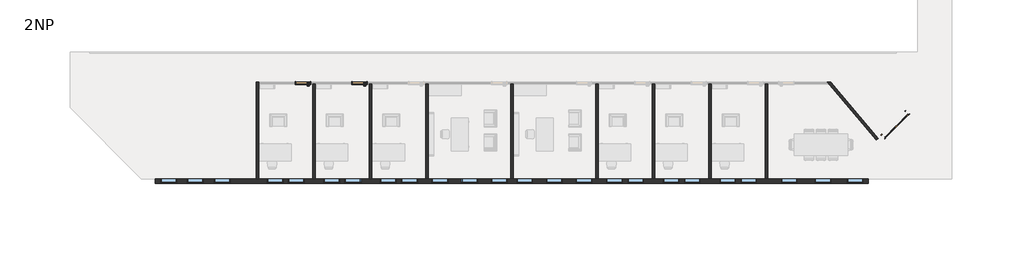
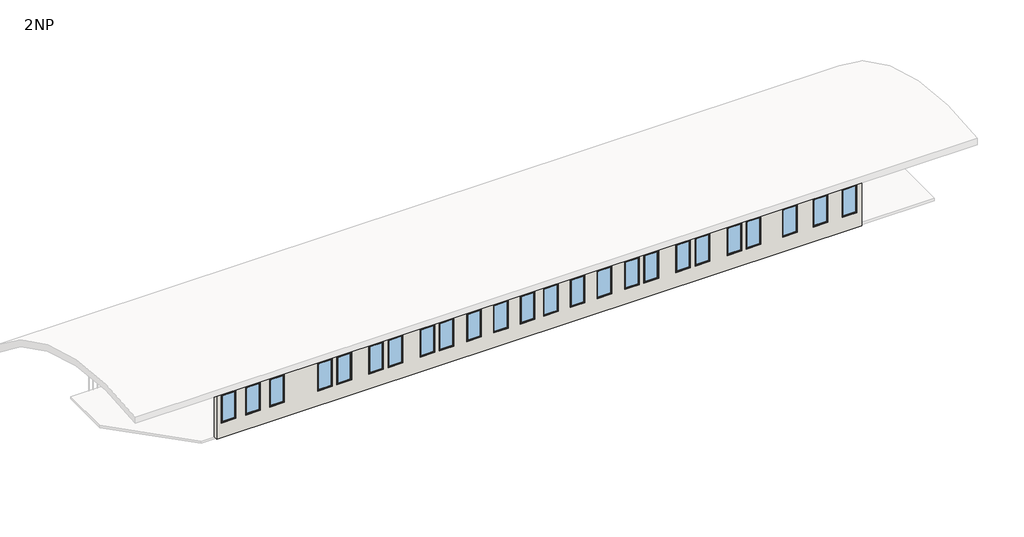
# One storey, part 1 of 2: 24 windows, 11 walls, 3 doors.
"""IFC4 building model written with IfcOpenShell, lengths in millimetres."""

import ifcopenshell
import ifcopenshell.guid

model = None  # the IFC model being written
_history = None  # IfcOwnerHistory: only IFC2X3 demands one
_inside = {}  # id of a spatial element -> (the spatial element, [elements in it])
_under = {}  # id of a project, library or spatial element -> (it, [spatial elements below it])
_declared = {}  # id of a project -> (the project, [libraries it declares])
_typed = {}  # id of a type object -> (the type object, [elements of that type])
_made_of = {}  # id of a material, layer set ... -> (it, [elements and type objects made of it])


def new_model(schema):
    """Start an empty IFC model of exactly this schema.

    Asked for "IFC4X3", IfcOpenShell would pick the latest addendum, in which some entities
    have other attributes; the version numbers below select the first issue.
    IFC2X3 requires an IfcOwnerHistory on every rooted entity: one is made here for all.
    """
    global model, _history
    if schema == "IFC4X3":
        model = ifcopenshell.file(schema_version=(4, 3, 0, 0))
    else:
        model = ifcopenshell.file(schema=schema)
    _inside.clear()
    _under.clear()
    _declared.clear()
    _typed.clear()
    _made_of.clear()
    _history = None
    if model.schema == "IFC2X3":
        org = make("IfcOrganization", Name="unknown")
        user = make(
            "IfcPersonAndOrganization",
            ThePerson=make("IfcPerson", FamilyName="unknown"),
            TheOrganization=org,
        )
        app = make(
            "IfcApplication",
            ApplicationDeveloper=org,
            Version="unknown",
            ApplicationFullName="unknown",
            ApplicationIdentifier="unknown",
        )
        _history = make(
            "IfcOwnerHistory",
            OwningUser=user,
            OwningApplication=app,
            ChangeAction="ADDED",
            CreationDate=0,
        )
    return model


def make(cls, **values):
    """One entity of the class cls with the attributes given. An attribute that is None is left unset."""
    return model.create_entity(
        cls, **{name: value for name, value in values.items() if value is not None}
    )


def rooted(cls, **values):
    """An entity with a GlobalId (a new one), such as an element, a storey or a relation."""
    return make(cls, GlobalId=ifcopenshell.guid.new(), OwnerHistory=_history, **values)


def si_unit(unit_type, name, prefix=None):
    """IfcSIUnit, for example si_unit("LENGTHUNIT", "METRE", prefix="MILLI")."""
    return make("IfcSIUnit", UnitType=unit_type, Prefix=prefix, Name=name)


def assignment(units):
    """IfcUnitAssignment: the units of a project."""
    return None if units is None else make("IfcUnitAssignment", Units=units)


def point(xyz):
    """IfcCartesianPoint."""
    return None if xyz is None else make("IfcCartesianPoint", Coordinates=xyz)


def direction(xyz):
    """IfcDirection."""
    return None if xyz is None else make("IfcDirection", DirectionRatios=xyz)


def frame(location, z_axis=None, x_axis=None):
    """IfcAxis2Placement3D, a coordinate frame: its origin and axes. An axis left out is left unset."""
    return make(
        "IfcAxis2Placement3D",
        Location=point(location),
        Axis=direction(z_axis),
        RefDirection=direction(x_axis),
    )


def frame_2d(location, x_axis=None):
    """IfcAxis2Placement2D, a coordinate frame in the plane: its origin and x axis."""
    return make(
        "IfcAxis2Placement2D", Location=point(location), RefDirection=direction(x_axis)
    )


def origin():
    """The frame at (0, 0, 0) with its axes left unset."""
    return frame((0.0, 0.0, 0.0))


def origin_with_axes():
    """The frame at (0, 0, 0) with the z axis (0, 0, 1) and the x axis (1, 0, 0) written out."""
    return frame((0.0, 0.0, 0.0), z_axis=(0.0, 0.0, 1.0), x_axis=(1.0, 0.0, 0.0))


def place(relative_to, where):
    """IfcLocalPlacement: puts the frame where relative to a parent placement (None: the world)."""
    return make(
        "IfcLocalPlacement", PlacementRelTo=relative_to, RelativePlacement=where
    )


def context(
    kind, dimensions, precision=None, world=None, true_north=None, identifier=None
):
    """IfcGeometricRepresentationContext, for example the 3D "Model" context."""
    return make(
        "IfcGeometricRepresentationContext",
        ContextIdentifier=identifier,
        ContextType=kind,
        CoordinateSpaceDimension=dimensions,
        Precision=precision,
        WorldCoordinateSystem=world,
        TrueNorth=true_north,
    )


def project(units=None, contexts=None):
    """IfcProject with its units and contexts."""
    return rooted(
        "IfcProject",
        Name="project",
        RepresentationContexts=contexts,
        UnitsInContext=assignment(units),
    )


def spatial(cls, under=None, at=None, **own):
    """A site, building, storey or space (cls), placed at a placement, below another one or the project."""
    s = rooted(cls, ObjectPlacement=at, **own)
    if under is not None:
        _under.setdefault(under.id(), (under, []))[1].append(s)
    return s


def polyline(points):
    """IfcPolyline through the points."""
    return make("IfcPolyline", Points=[point(p) for p in points])


def circle_curve(where, radius):
    """IfcCircle in the frame where."""
    return make("IfcCircle", Position=where, Radius=radius)


def ellipse_curve(where, semi_axis1, semi_axis2):
    """IfcEllipse in the frame where."""
    return make(
        "IfcEllipse", Position=where, SemiAxis1=semi_axis1, SemiAxis2=semi_axis2
    )


def trimmed(basis, trim1, trim2, sense, master):
    """IfcTrimmedCurve: the piece of a basis curve between two trims."""
    return make(
        "IfcTrimmedCurve",
        BasisCurve=basis,
        Trim1=trim1,
        Trim2=trim2,
        SenseAgreement=sense,
        MasterRepresentation=master,
    )


def segment(curve, same_sense, transition):
    """IfcCompositeCurveSegment."""
    return make(
        "IfcCompositeCurveSegment",
        Transition=transition,
        SameSense=same_sense,
        ParentCurve=curve,
    )


def composite_curve(segments, self_intersect=None):
    """IfcCompositeCurve: segments joined end to end."""
    return make("IfcCompositeCurve", Segments=segments, SelfIntersect=self_intersect)


def outline(outer, holes=None, kind="AREA"):
    """IfcArbitraryClosedProfileDef: a profile drawn as a closed curve; with holes, ...WithVoids."""
    if holes is None:
        return make("IfcArbitraryClosedProfileDef", ProfileType=kind, OuterCurve=outer)
    return make(
        "IfcArbitraryProfileDefWithVoids",
        ProfileType=kind,
        OuterCurve=outer,
        InnerCurves=holes,
    )


def extrude(swept, where, along, depth):
    """IfcExtrudedAreaSolid: the profile swept, set in the frame where, extruded along a direction by depth."""
    return make(
        "IfcExtrudedAreaSolid",
        SweptArea=swept,
        Position=where,
        ExtrudedDirection=direction(along),
        Depth=depth,
    )


def faces_of(points, faces, orient=None, outer=None):
    """IfcFace entities. A face is a list of loops; a loop is a list of indices into points, from 0.

    orient and outer hold one flag for each loop. By default every Orientation is true, the
    first loop of a face is its IfcFaceOuterBound and the others are IfcFaceBound.
    """
    made = []
    for i, loops in enumerate(faces):
        bounds = []
        for j, loop in enumerate(loops):
            is_outer = j == 0 if outer is None else outer[i][j]
            bounds.append(
                make(
                    "IfcFaceOuterBound" if is_outer else "IfcFaceBound",
                    Bound=make("IfcPolyLoop", Polygon=[points[k] for k in loop]),
                    Orientation=True if orient is None else orient[i][j],
                )
            )
        made.append(make("IfcFace", Bounds=bounds))
    return made


def faceted_brep(points, faces, orient=None, outer=None, voids=None):
    """IfcFacetedBrep: a solid bounded by flat faces; with voids (closed shells), ...WithVoids."""
    shared = [point(p) for p in points]
    hull = make("IfcClosedShell", CfsFaces=faces_of(shared, faces, orient, outer))
    if voids is None:
        return make("IfcFacetedBrep", Outer=hull)
    return make(
        "IfcFacetedBrepWithVoids",
        Outer=hull,
        Voids=[
            make(cls, CfsFaces=faces_of(shared, fs, o, b)) for cls, fs, o, b in voids
        ],
    )


def shape(context_of_items, identifier, shape_type, items):
    """IfcShapeRepresentation: the items that make up one representation, for example the "Body"."""
    return make(
        "IfcShapeRepresentation",
        ContextOfItems=context_of_items,
        RepresentationIdentifier=identifier,
        RepresentationType=shape_type,
        Items=items,
    )


def source(mapping_origin, context_of_items, identifier, shape_type, items):
    """IfcRepresentationMap: a shape defined once, which mapped items show again and again."""
    return make(
        "IfcRepresentationMap",
        MappingOrigin=mapping_origin,
        MappedRepresentation=shape(context_of_items, identifier, shape_type, items),
    )


def transform(
    local_origin,
    x_axis=None,
    y_axis=None,
    z_axis=None,
    scale=None,
    scale2=None,
    scale3=None,
    uniform=True,
):
    """IfcCartesianTransformationOperator3D, or its non-uniform kind. x_axis, y_axis, z_axis: its Axis1, 2, 3."""
    if uniform:
        return make(
            "IfcCartesianTransformationOperator3D",
            Axis1=direction(x_axis),
            Axis2=direction(y_axis),
            LocalOrigin=point(local_origin),
            Scale=scale,
            Axis3=direction(z_axis),
        )
    return make(
        "IfcCartesianTransformationOperator3DnonUniform",
        Axis1=direction(x_axis),
        Axis2=direction(y_axis),
        LocalOrigin=point(local_origin),
        Scale=scale,
        Axis3=direction(z_axis),
        Scale2=scale2,
        Scale3=scale3,
    )


def mapped(mapping_source, mapping_target):
    """IfcMappedItem: shows the shape of a source again, moved by a transform."""
    return make(
        "IfcMappedItem", MappingSource=mapping_source, MappingTarget=mapping_target
    )


def made_of(thing, what):
    """Note that an element or type object is made of a material, layer set ...; save() writes the relation."""
    if what is not None:
        _made_of.setdefault(what.id(), (what, []))[1].append(thing)
    return thing


def element(
    cls,
    number,
    at=None,
    inside=None,
    cuts=None,
    type_object=None,
    material=None,
    context=None,
    identifier="Body",
    shape_type=None,
    held_by="IfcProductDefinitionShape",
    body=None,
    shapes=None,
    **own,
):
    """One element of the class cls, such as IfcWall. Its Tag is "e" and its number.

    at: its placement. inside: the storey or other place that contains it. cuts: it is an
    opening in that element (IfcRelVoidsElement). A single representation is given by context,
    identifier, shape_type and body (its items); several are given by shapes. held_by: the class
    of the entity that holds the representations. save() writes the other relations.
    """
    e = rooted(cls, Tag="e%d" % number, ObjectPlacement=at, **own)
    if body is not None:
        shapes = [shape(context, identifier, shape_type, body)]
    if shapes is not None:
        e.Representation = make(held_by, Representations=shapes)
    if inside is not None:
        _inside.setdefault(inside.id(), (inside, []))[1].append(e)
    if cuts is not None:
        rooted(
            "IfcRelVoidsElement", RelatingBuildingElement=cuts, RelatedOpeningElement=e
        )
    if type_object is not None:
        _typed.setdefault(type_object.id(), (type_object, []))[1].append(e)
    return made_of(e, material)


def aggregate(whole, parts):
    """IfcRelAggregates: a whole, such as a stair, and the parts it consists of."""
    return rooted("IfcRelAggregates", RelatingObject=whole, RelatedObjects=parts)


def save(model, path):
    """Write the relations noted so far, then the file.

    IfcRelAggregates (storeys below a building ...), IfcRelContainedInSpatialStructure (elements
    in a storey), IfcRelDefinesByType, IfcRelAssociatesMaterial and IfcRelDeclares: one each for
    every whole, place, type object, material and project.
    """
    for whole, parts in _under.values():
        aggregate(whole, parts)
    for where, things in _inside.values():
        rooted(
            "IfcRelContainedInSpatialStructure",
            RelatedElements=things,
            RelatingStructure=where,
        )
    for kind, things in _typed.values():
        rooted("IfcRelDefinesByType", RelatedObjects=things, RelatingType=kind)
    for what, things in _made_of.values():
        rooted("IfcRelAssociatesMaterial", RelatedObjects=things, RelatingMaterial=what)
    for by, libraries in _declared.values():
        rooted("IfcRelDeclares", RelatingContext=by, RelatedDefinitions=libraries)
    model.write(path)


def plane_surface(at):
    """IfcPlane: the flat surface through the origin of the frame at, square to its z axis."""
    return make("IfcPlane", Position=at)


def cylinder_surface(at, radius):
    """IfcCylindricalSurface: all points at the distance radius from the z axis of the frame at."""
    return make("IfcCylindricalSurface", Position=at, Radius=radius)


def advanced_brep(points, edges, surfaces, faces):
    """IfcAdvancedBrep: a solid bounded by faces that lie on surfaces and meet in shared edges.

    An edge is (start, end): straight between two places in points (the first is 0);
    or (start, end, curve); or (start, end, curve, False) where it runs against its curve.
    A face is (place in surfaces, loops), or (place, loops, False) where it looks against
    its surface's normal. A loop lists edges by number (the first is 1), with a minus sign
    where the edge is run from its end to its start. The first loop is the outer one.
    """
    corners = [point(p) for p in points]
    vertices = [make("IfcVertexPoint", VertexGeometry=c) for c in corners]
    made = []
    for start, end, *more in edges:
        made.append(
            make(
                "IfcEdgeCurve",
                EdgeStart=vertices[start],
                EdgeEnd=vertices[end],
                EdgeGeometry=more[0] if more else make("IfcPolyline", Points=[corners[start], corners[end]]),
                SameSense=more[1] if len(more) > 1 else True,
            )
        )
    hull = []
    for where, loops, *sense in faces:
        bounds = []
        for j, loop in enumerate(loops):
            ring = [make("IfcOrientedEdge", EdgeElement=made[abs(k) - 1], Orientation=k > 0) for k in loop]
            bounds.append(
                make(
                    "IfcFaceOuterBound" if j == 0 else "IfcFaceBound",
                    Bound=make("IfcEdgeLoop", EdgeList=ring),
                    Orientation=True,
                )
            )
        hull.append(make("IfcAdvancedFace", Bounds=bounds, FaceSurface=surfaces[where], SameSense=sense[0] if sense else True))
    return make("IfcAdvancedBrep", Outer=make("IfcClosedShell", CfsFaces=hull))


def door_1800_x_1970mm_ce9160c6(model_context):
    return source(origin(), model_context, "Body", "SweptSolid", [
        extrude(outline(polyline([(0.0, 991.0), (2210.0, 991.0), (2210.0, -991.0), (0.0, -991.0), (0.0, -915.0), (2134.0, -915.0), (2134.0, 915.0), (0.0, 915.0), (0.0, 991.0)])), frame((0.0, -156.11875, 0.0), z_axis=(0.0, 1.0, 0.0), x_axis=(0.0, 0.0, 1.0)), (0.0, 0.0, 1.0), 25.0),
        extrude(outline(polyline([(2134.0, 915.0), (0.0, 915.0), (0.0, 991.0), (2210.0, 991.0), (2210.0, -991.0), (0.0, -991.0), (0.0, -915.0), (2134.0, -915.0), (2134.0, 915.0)])), frame((0.0, 135.88125, 0.0), z_axis=(0.0, 1.0, 0.0), x_axis=(0.0, 0.0, 1.0)), (0.0, 0.0, 1.0), 25.0),
        extrude(outline(polyline([(813.4, 110.48125), (101.6, 110.48125), (101.6, 117.625), (813.4, 117.625), (813.4, 110.48125)])), frame((0.0, 0.0, 102.0), z_axis=(0.0, 0.0, 1.0), x_axis=(1.0, 0.0, 0.0)), (0.0, 0.0, 1.0), 1930.0),
        extrude(outline(polyline([(-101.6, 110.48125), (-813.4, 110.48125), (-813.4, 117.625), (-101.6, 117.625), (-101.6, 110.48125)])), frame((0.0, 0.0, 102.0), z_axis=(0.0, 0.0, 1.0), x_axis=(1.0, 0.0, 0.0)), (0.0, 0.0, 1.0), 1930.0),
        extrude(outline(polyline([(2134.0, 915.0), (2134.0, -915.0), (0.0, -915.0), (0.0, 915.0), (2134.0, 915.0)]), holes=[polyline([(2032.0, -101.6), (102.0, -101.6), (102.0, -813.4), (2032.0, -813.4), (2032.0, -101.6)]), polyline([(2032.0, 813.4), (102.0, 813.4), (102.0, 101.6), (2032.0, 101.6), (2032.0, 813.4)])]), frame((0.0, 84.88125, 0.0), z_axis=(0.0, 1.0, 0.0), x_axis=(0.0, 0.0, 1.0)), (0.0, 0.0, 1.0), 51.0),
    ])


def door_900_x_2000_4c66a93d(model_context):
    return source(origin(), model_context, "Body", "SolidModel", [
        advanced_brep(
        [(340.0, -97.25, 1000.0), (320.0, -97.25, 1000.0), (340.0, -167.25, 1000.0), (320.0, -147.25, 1000.0), (215.0, -167.25, 1000.0), (215.0, -147.25, 1000.0)],
        [
            (0, 1, circle_curve(frame((330.0, -97.25, 1000.0), z_axis=(0.0, 1.0, 0.0), x_axis=(-1.0, 0.0, 0.0)), 10.0)),
            (1, 0, circle_curve(frame((330.0, -97.25, 1000.0), z_axis=(0.0, 1.0, 0.0), x_axis=(-1.0, 0.0, 0.0)), 10.0)),
            (0, 2),
            (2, 3, ellipse_curve(frame((330.0, -157.25, 1000.0), z_axis=(0.7071067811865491, 0.7071067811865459, 0.0), x_axis=(-0.7071067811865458, 0.7071067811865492, 0.0)), 14.1421356, 10.0)),
            (3, 1),
            (3, 2, ellipse_curve(frame((330.0, -157.25, 1000.0), z_axis=(0.7071067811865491, 0.7071067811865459, 0.0), x_axis=(-0.7071067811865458, 0.7071067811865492, 0.0)), 14.1421356, 10.0)),
            (4, 5, circle_curve(frame((215.0, -157.25, 1000.0), z_axis=(-1.0, 0.0, 0.0), x_axis=(0.0, 1.0, 0.0)), 10.0)),
            (5, 4, circle_curve(frame((215.0, -157.25, 1000.0), z_axis=(-1.0, 0.0, 0.0), x_axis=(0.0, 1.0, 0.0)), 10.0)),
            (2, 4),
            (5, 3),
        ],
        [
            plane_surface(frame((330.0, -97.25, 1000.0), z_axis=(0.0, 1.0, 0.0), x_axis=(0.0, 0.0, 1.0))),
            cylinder_surface(frame((330.0, -97.25, 1000.0), z_axis=(0.0, 1.0, 0.0), x_axis=(-1.0, 0.0, 0.0)), 10.0),
            plane_surface(frame((215.0, -157.25, 1000.0), z_axis=(-1.0, 0.0, 0.0), x_axis=(0.0, 0.0, 1.0))),
            cylinder_surface(frame((330.0, -157.25, 1000.0), z_axis=(1.0, 0.0, 0.0), x_axis=(0.0, 1.0, 0.0)), 10.0),
        ],
        [
            (0, [[1, 2]]),
            (1, [[-1, 3, 4, 5]]),
            (1, [[-2, -5, 6, -3]]),
            (2, [[7, 8]]),
            (3, [[-4, 9, -8, 10]]),
            (3, [[-6, -10, -7, -9]]),
        ],
    ),
        extrude(outline(composite_curve([segment(trimmed(circle_curve(frame_2d((900.0, 330.0)), 26.0), [point((900.0, 304.0))], [point((900.0, 356.0))], False, "CARTESIAN"), True, "CONTINUOUS"), segment(trimmed(circle_curve(frame_2d((900.0, 330.0)), 26.0), [point((900.0, 356.0))], [point((900.0, 304.0))], False, "CARTESIAN"), True, "CONTINUOUS")], self_intersect=False)), frame((0.0, -97.25, 0.0), z_axis=(0.0, 1.0, 0.0), x_axis=(0.0, 0.0, 1.0)), (0.0, 0.0, 1.0), 8.0),
        extrude(outline(composite_curve([segment(trimmed(circle_curve(frame_2d((1000.0, 330.0)), 26.0), [point((1000.0, 304.0))], [point((1000.0, 356.0))], False, "CARTESIAN"), True, "CONTINUOUS"), segment(trimmed(circle_curve(frame_2d((1000.0, 330.0)), 26.0), [point((1000.0, 356.0))], [point((1000.0, 304.0))], False, "CARTESIAN"), True, "CONTINUOUS")], self_intersect=False)), frame((0.0, -97.25, 0.0), z_axis=(0.0, 1.0, 0.0), x_axis=(0.0, 0.0, 1.0)), (0.0, 0.0, 1.0), 8.0),
        advanced_brep(
        [(340.0, -41.25, 1000.0), (320.0, -41.25, 1000.0), (320.0, 8.75, 1000.0), (340.0, 28.75, 1000.0), (215.0, 28.75, 1000.0), (215.0, 8.75, 1000.0)],
        [
            (0, 1, circle_curve(frame((330.0, -41.25, 1000.0), z_axis=(0.0, -1.0, 0.0), x_axis=(-1.0, 0.0, 0.0)), 10.0)),
            (1, 0, circle_curve(frame((330.0, -41.25, 1000.0), z_axis=(0.0, -1.0, 0.0), x_axis=(-1.0, 0.0, 0.0)), 10.0)),
            (1, 2),
            (2, 3, ellipse_curve(frame((330.0, 18.75, 1000.0), z_axis=(0.7071067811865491, -0.7071067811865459, 0.0), x_axis=(-0.7071067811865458, -0.7071067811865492, 0.0)), 14.1421356, 10.0)),
            (3, 0),
            (3, 2, ellipse_curve(frame((330.0, 18.75, 1000.0), z_axis=(0.7071067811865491, -0.7071067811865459, 0.0), x_axis=(-0.7071067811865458, -0.7071067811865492, 0.0)), 14.1421356, 10.0)),
            (4, 5, circle_curve(frame((215.0, 18.75, 1000.0), z_axis=(-1.0, 0.0, 0.0), x_axis=(0.0, -1.0, 0.0)), 10.0)),
            (5, 4, circle_curve(frame((215.0, 18.75, 1000.0), z_axis=(-1.0, 0.0, 0.0), x_axis=(0.0, -1.0, 0.0)), 10.0)),
            (2, 5),
            (4, 3),
        ],
        [
            plane_surface(frame((330.0, -41.25, 1000.0), z_axis=(0.0, -1.0, 0.0), x_axis=(0.0, 0.0, 1.0))),
            cylinder_surface(frame((330.0, -41.25, 1000.0), z_axis=(0.0, -1.0, 0.0), x_axis=(-1.0, 0.0, 0.0)), 10.0),
            plane_surface(frame((215.0, 18.75, 1000.0), z_axis=(-1.0, 0.0, 0.0), x_axis=(0.0, 0.0, 1.0))),
            cylinder_surface(frame((330.0, 18.75, 1000.0), z_axis=(1.0, 0.0, 0.0), x_axis=(0.0, -1.0, 0.0)), 10.0),
        ],
        [
            (0, [[1, 2]]),
            (1, [[3, 4, 5, -2]]),
            (1, [[-5, 6, -3, -1]]),
            (2, [[7, 8]]),
            (3, [[9, -7, 10, -4]]),
            (3, [[-10, -8, -9, -6]]),
        ],
    ),
        extrude(outline(composite_curve([segment(trimmed(circle_curve(frame_2d((900.0, 330.0)), 26.0), [point((900.0, 304.0))], [point((900.0, 356.0))], False, "CARTESIAN"), True, "CONTINUOUS"), segment(trimmed(circle_curve(frame_2d((900.0, 330.0)), 26.0), [point((900.0, 356.0))], [point((900.0, 304.0))], False, "CARTESIAN"), True, "CONTINUOUS")], self_intersect=False)), frame((0.0, -49.25, 0.0), z_axis=(0.0, 1.0, 0.0), x_axis=(0.0, 0.0, 1.0)), (0.0, 0.0, 1.0), 8.0),
        extrude(outline(composite_curve([segment(trimmed(circle_curve(frame_2d((1000.0, 330.0)), 26.0), [point((1000.0, 304.0))], [point((1000.0, 356.0))], False, "CARTESIAN"), True, "CONTINUOUS"), segment(trimmed(circle_curve(frame_2d((1000.0, 330.0)), 26.0), [point((1000.0, 356.0))], [point((1000.0, 304.0))], False, "CARTESIAN"), True, "CONTINUOUS")], self_intersect=False)), frame((0.0, -49.25, 0.0), z_axis=(0.0, 1.0, 0.0), x_axis=(0.0, 0.0, 1.0)), (0.0, 0.0, 1.0), 8.0),
        extrude(outline(polyline([(-420.0, -89.25), (-420.0, -49.25), (380.0, -49.25), (380.0, -89.25), (-420.0, -89.25)])), origin_with_axes(), (0.0, 0.0, 1.0), 2000.0),
        extrude(outline(polyline([(0.0, 430.0), (2050.0, 430.0), (2050.0, -470.0), (0.0, -470.0), (0.0, -420.0), (2000.0, -420.0), (2000.0, 380.0), (0.0, 380.0), (0.0, 430.0)])), frame((0.0, -77.25, 0.0), z_axis=(0.0, 1.0, 0.0), x_axis=(0.0, 0.0, 1.0)), (0.0, 0.0, 1.0), 154.5),
        extrude(outline(polyline([(380.0, 69.25), (380.0, -49.25), (-420.0, -49.25), (-420.0, 69.25), (380.0, 69.25)])), origin_with_axes(), (0.0, 0.0, 1.0), 25.0),
    ])


def window_0915_x_1830mm_7ee91fd3(model_context):
    return source(origin(), model_context, "Body", "SweptSolid", [
        extrude(outline(polyline([(-394.5, 111.5), (394.5, 111.5), (394.5, 99.5), (-394.5, 99.5), (-394.5, 111.5)])), frame((0.0, 0.0, 368.0), z_axis=(0.0, 0.0, 1.0), x_axis=(1.0, 0.0, 0.0)), (0.0, 0.0, 1.0), 1704.0),
        extrude(outline(polyline([(2116.0, -438.5), (324.0, -438.5), (324.0, 438.5), (2116.0, 438.5), (2116.0, -438.5)]), holes=[polyline([(2072.0, -394.5), (2072.0, 394.5), (368.0, 394.5), (368.0, -394.5), (2072.0, -394.5)])]), frame((0.0, 83.5, 0.0), z_axis=(0.0, 1.0, 0.0), x_axis=(0.0, 0.0, 1.0)), (0.0, 0.0, 1.0), 44.0),
        extrude(outline(polyline([(2135.0, -457.5), (305.0, -457.5), (305.0, 457.5), (2135.0, 457.5), (2135.0, -457.5)]), holes=[polyline([(2116.0, -438.5), (2116.0, 438.5), (324.0, 438.5), (324.0, -438.5), (2116.0, -438.5)])]), frame((0.0, 83.5, 0.0), z_axis=(0.0, 1.0, 0.0), x_axis=(0.0, 0.0, 1.0)), (0.0, 0.0, 1.0), 63.0),
        extrude(outline(polyline([(2135.0, -457.5), (305.0, -457.5), (305.0, 457.5), (2135.0, 457.5), (2135.0, -457.5)]), holes=[polyline([(2103.0, -425.5), (2103.0, 425.5), (337.0, 425.5), (337.0, -425.5), (2103.0, -425.5)])]), frame((0.0, -120.5, 0.0), z_axis=(0.0, 1.0, 0.0), x_axis=(0.0, 0.0, 1.0)), (0.0, 0.0, 1.0), 204.0),
    ])


model = new_model("IFC4")

# Units and contexts
model_context = context("Model", 3, world=origin())
ifc_project = project(units=[si_unit("LENGTHUNIT", "METRE", prefix="MILLI")], contexts=[model_context])

# Site, building, storey
site = spatial("IfcSite", under=ifc_project)
building = spatial("IfcBuilding", under=site)
storey = spatial("IfcBuildingStorey", under=building, Name="2NP", Elevation=4000.0)

# Doors
placement = place(None, origin())
door_1800_x_1970mm_shape = door_1800_x_1970mm_ce9160c6(model_context)
element("IfcDoor", 1, ObjectType="Dvoukridle prosklene : 1800 x 1970mm", at=placement, inside=storey, context=model_context, shape_type="MappedRepresentation", body=[
    mapped(door_1800_x_1970mm_shape, transform((35269.5413404, -1561.4077171, 4000.0), x_axis=(-0.7071067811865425, -0.7071067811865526, 0.0), y_axis=(0.7071067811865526, -0.7071067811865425, 0.0), z_axis=(0.0, 0.0, 1.0))),
])
door_900_x_2000_shape = door_900_x_2000_4c66a93d(model_context)
element("IfcDoor", 2, ObjectType="Jednokridle oboustrana zaruben : 900 x 2000", at=placement, inside=storey, context=model_context, shape_type="MappedRepresentation", body=[
    mapped(door_900_x_2000_shape, transform((1782.4255273, 791.5551306, 4000.0), x_axis=(1.0, 0.0, 0.0), y_axis=(0.0, 1.0, 0.0), z_axis=(0.0, 0.0, 1.0))),
])
element("IfcDoor", 3, ObjectType="Jednokridle oboustrana zaruben : 900 x 2000", at=placement, inside=storey, context=model_context, shape_type="MappedRepresentation", body=[
    mapped(door_900_x_2000_shape, transform((4982.4255273, 791.5551306, 4000.0), x_axis=(1.0, 0.0, 0.0), y_axis=(0.0, 1.0, 0.0), z_axis=(0.0, 0.0, 1.0))),
])

# Walls
element("IfcWall", 4, ObjectType="Exterior - EIFS on Mtl. Stud", at=placement, inside=storey, context=model_context, shape_type="Brep", body=[
    faceted_brep([(33755.6755273, -4624.9448694, 4000.0), (28058.4255273, -4624.9448694, 4000.0), (27919.9255273, -4624.9448694, 4000.0), (24858.4255273, -4624.9448694, 4000.0), (24719.9255273, -4624.9448694, 4000.0), (21658.4255273, -4624.9448694, 4000.0), (21519.9255273, -4624.9448694, 4000.0), (18458.4255273, -4624.9448694, 4000.0), (18319.9255273, -4624.9448694, 4000.0), (13658.4255273, -4624.9448694, 4000.0), (13519.9255273, -4624.9448694, 4000.0), (8858.4255273, -4624.9448694, 4000.0), (8719.9255273, -4624.9448694, 4000.0), (5658.4255273, -4624.9448694, 4000.0), (5519.9255273, -4624.9448694, 4000.0), (2458.4255273, -4624.9448694, 4000.0), (2319.9255273, -4624.9448694, 4000.0), (-741.5744727, -4624.9448694, 4000.0), (-880.0744727, -4624.9448694, 4000.0), (-6587.8076313, -4624.9448694, 4000.0), (-6587.8076313, -4624.9448694, 8000.0), (33755.6755273, -4624.9448694, 8000.0), (33455.6755273, -4624.9448694, 4970.0), (33455.6755273, -4624.9448694, 6800.0), (32540.6755273, -4624.9448694, 6800.0), (32540.6755273, -4624.9448694, 4970.0), (31640.6755273, -4624.9448694, 4970.0), (31640.6755273, -4624.9448694, 6800.0), (30725.6755273, -4624.9448694, 6800.0), (30725.6755273, -4624.9448694, 4970.0), (29725.6755273, -4624.9448694, 4970.0), (29725.6755273, -4624.9448694, 6800.0), (28810.6755273, -4624.9448694, 6800.0), (28810.6755273, -4624.9448694, 4970.0), (-5380.0744727, -4624.9448694, 4970.0), (-5380.0744727, -4624.9448694, 6800.0), (-6295.0744727, -4624.9448694, 6800.0), (-6295.0744727, -4624.9448694, 4970.0), (-3865.0744727, -4624.9448694, 4970.0), (-3865.0744727, -4624.9448694, 6800.0), (-4780.0744727, -4624.9448694, 6800.0), (-4780.0744727, -4624.9448694, 4970.0), (-2350.0744727, -4624.9448694, 4970.0), (-2350.0744727, -4624.9448694, 6800.0), (-3265.0744727, -4624.9448694, 6800.0), (-3265.0744727, -4624.9448694, 4970.0), (646.6755273, -4624.9448694, 4970.0), (646.6755273, -4624.9448694, 6800.0), (-268.3244727, -4624.9448694, 6800.0), (-268.3244727, -4624.9448694, 4970.0), (1846.6755273, -4624.9448694, 4970.0), (1846.6755273, -4624.9448694, 6800.0), (931.6755273, -4624.9448694, 6800.0), (931.6755273, -4624.9448694, 4970.0), (9973.4255273, -4624.9448694, 4970.0), (9973.4255273, -4624.9448694, 6800.0), (9058.4255273, -4624.9448694, 6800.0), (9058.4255273, -4624.9448694, 4970.0), (13319.9255273, -4624.9448694, 4970.0), (13319.9255273, -4624.9448694, 6800.0), (12404.9255273, -4624.9448694, 6800.0), (12404.9255273, -4624.9448694, 4970.0), (11646.4255273, -4624.9448694, 4970.0), (11646.4255273, -4624.9448694, 6800.0), (10731.4255273, -4624.9448694, 6800.0), (10731.4255273, -4624.9448694, 4970.0), (14773.4255273, -4624.9448694, 4970.0), (14773.4255273, -4624.9448694, 6800.0), (13858.4255273, -4624.9448694, 6800.0), (13858.4255273, -4624.9448694, 4970.0), (18119.9255273, -4624.9448694, 4970.0), (18119.9255273, -4624.9448694, 6800.0), (17204.9255273, -4624.9448694, 6800.0), (17204.9255273, -4624.9448694, 4970.0), (16446.4255273, -4624.9448694, 4970.0), (16446.4255273, -4624.9448694, 6800.0), (15531.4255273, -4624.9448694, 6800.0), (15531.4255273, -4624.9448694, 4970.0), (3846.6755273, -4624.9448694, 4970.0), (3846.6755273, -4624.9448694, 6800.0), (2931.6755273, -4624.9448694, 6800.0), (2931.6755273, -4624.9448694, 4970.0), (5046.6755273, -4624.9448694, 4970.0), (5046.6755273, -4624.9448694, 6800.0), (4131.6755273, -4624.9448694, 6800.0), (4131.6755273, -4624.9448694, 4970.0), (7046.6755273, -4624.9448694, 4970.0), (7046.6755273, -4624.9448694, 6800.0), (6131.6755273, -4624.9448694, 6800.0), (6131.6755273, -4624.9448694, 4970.0), (8246.6755273, -4624.9448694, 4970.0), (8246.6755273, -4624.9448694, 6800.0), (7331.6755273, -4624.9448694, 6800.0), (7331.6755273, -4624.9448694, 4970.0), (19846.6755273, -4624.9448694, 4970.0), (19846.6755273, -4624.9448694, 6800.0), (18931.6755273, -4624.9448694, 6800.0), (18931.6755273, -4624.9448694, 4970.0), (21046.6755273, -4624.9448694, 4970.0), (21046.6755273, -4624.9448694, 6800.0), (20131.6755273, -4624.9448694, 6800.0), (20131.6755273, -4624.9448694, 4970.0), (23046.6755273, -4624.9448694, 4970.0), (23046.6755273, -4624.9448694, 6800.0), (22131.6755273, -4624.9448694, 6800.0), (22131.6755273, -4624.9448694, 4970.0), (24246.6755273, -4624.9448694, 4970.0), (24246.6755273, -4624.9448694, 6800.0), (23331.6755273, -4624.9448694, 6800.0), (23331.6755273, -4624.9448694, 4970.0), (26246.6755273, -4624.9448694, 4970.0), (26246.6755273, -4624.9448694, 6800.0), (25331.6755273, -4624.9448694, 6800.0), (25331.6755273, -4624.9448694, 4970.0), (27446.6755273, -4624.9448694, 4970.0), (27446.6755273, -4624.9448694, 6800.0), (26531.6755273, -4624.9448694, 6800.0), (26531.6755273, -4624.9448694, 4970.0), (-6587.8076313, -4891.9448694, 4000.0), (33755.6755273, -4891.9448694, 4000.0), (33755.6755273, -4891.9448694, 8000.0), (-6587.8076313, -4891.9448694, 8000.0), (33455.6755273, -4891.9448694, 6800.0), (33455.6755273, -4891.9448694, 4970.0), (32540.6755273, -4891.9448694, 4970.0), (32540.6755273, -4891.9448694, 6800.0), (31640.6755273, -4891.9448694, 6800.0), (31640.6755273, -4891.9448694, 4970.0), (30725.6755273, -4891.9448694, 4970.0), (30725.6755273, -4891.9448694, 6800.0), (29725.6755273, -4891.9448694, 6800.0), (29725.6755273, -4891.9448694, 4970.0), (28810.6755273, -4891.9448694, 4970.0), (28810.6755273, -4891.9448694, 6800.0), (-5380.0744727, -4891.9448694, 6800.0), (-5380.0744727, -4891.9448694, 4970.0), (-6295.0744727, -4891.9448694, 4970.0), (-6295.0744727, -4891.9448694, 6800.0), (-3865.0744727, -4891.9448694, 6800.0), (-3865.0744727, -4891.9448694, 4970.0), (-4780.0744727, -4891.9448694, 4970.0), (-4780.0744727, -4891.9448694, 6800.0), (-2350.0744727, -4891.9448694, 6800.0), (-2350.0744727, -4891.9448694, 4970.0), (-3265.0744727, -4891.9448694, 4970.0), (-3265.0744727, -4891.9448694, 6800.0), (646.6755273, -4891.9448694, 6800.0), (646.6755273, -4891.9448694, 4970.0), (-268.3244727, -4891.9448694, 4970.0), (-268.3244727, -4891.9448694, 6800.0), (1846.6755273, -4891.9448694, 6800.0), (1846.6755273, -4891.9448694, 4970.0), (931.6755273, -4891.9448694, 4970.0), (931.6755273, -4891.9448694, 6800.0), (9973.4255273, -4891.9448694, 6800.0), (9973.4255273, -4891.9448694, 4970.0), (9058.4255273, -4891.9448694, 4970.0), (9058.4255273, -4891.9448694, 6800.0), (13319.9255273, -4891.9448694, 6800.0), (13319.9255273, -4891.9448694, 4970.0), (12404.9255273, -4891.9448694, 4970.0), (12404.9255273, -4891.9448694, 6800.0), (11646.4255273, -4891.9448694, 6800.0), (11646.4255273, -4891.9448694, 4970.0), (10731.4255273, -4891.9448694, 4970.0), (10731.4255273, -4891.9448694, 6800.0), (14773.4255273, -4891.9448694, 4970.0), (13858.4255273, -4891.9448694, 4970.0), (13858.4255273, -4891.9448694, 6800.0), (14773.4255273, -4891.9448694, 6800.0), (18119.9255273, -4891.9448694, 4970.0), (17204.9255273, -4891.9448694, 4970.0), (17204.9255273, -4891.9448694, 6800.0), (18119.9255273, -4891.9448694, 6800.0), (16446.4255273, -4891.9448694, 4970.0), (15531.4255273, -4891.9448694, 4970.0), (15531.4255273, -4891.9448694, 6800.0), (16446.4255273, -4891.9448694, 6800.0), (3846.6755273, -4891.9448694, 4970.0), (2931.6755273, -4891.9448694, 4970.0), (2931.6755273, -4891.9448694, 6800.0), (3846.6755273, -4891.9448694, 6800.0), (5046.6755273, -4891.9448694, 4970.0), (4131.6755273, -4891.9448694, 4970.0), (4131.6755273, -4891.9448694, 6800.0), (5046.6755273, -4891.9448694, 6800.0), (7046.6755273, -4891.9448694, 4970.0), (6131.6755273, -4891.9448694, 4970.0), (6131.6755273, -4891.9448694, 6800.0), (7046.6755273, -4891.9448694, 6800.0), (8246.6755273, -4891.9448694, 4970.0), (7331.6755273, -4891.9448694, 4970.0), (7331.6755273, -4891.9448694, 6800.0), (8246.6755273, -4891.9448694, 6800.0), (19846.6755273, -4891.9448694, 4970.0), (18931.6755273, -4891.9448694, 4970.0), (18931.6755273, -4891.9448694, 6800.0), (19846.6755273, -4891.9448694, 6800.0), (21046.6755273, -4891.9448694, 4970.0), (20131.6755273, -4891.9448694, 4970.0), (20131.6755273, -4891.9448694, 6800.0), (21046.6755273, -4891.9448694, 6800.0), (23046.6755273, -4891.9448694, 4970.0), (22131.6755273, -4891.9448694, 4970.0), (22131.6755273, -4891.9448694, 6800.0), (23046.6755273, -4891.9448694, 6800.0), (24246.6755273, -4891.9448694, 4970.0), (23331.6755273, -4891.9448694, 4970.0), (23331.6755273, -4891.9448694, 6800.0), (24246.6755273, -4891.9448694, 6800.0), (26246.6755273, -4891.9448694, 4970.0), (25331.6755273, -4891.9448694, 4970.0), (25331.6755273, -4891.9448694, 6800.0), (26246.6755273, -4891.9448694, 6800.0), (27446.6755273, -4891.9448694, 4970.0), (26531.6755273, -4891.9448694, 4970.0), (26531.6755273, -4891.9448694, 6800.0), (27446.6755273, -4891.9448694, 6800.0)], [[[0, 1, 2, 3, 4, 5, 6, 7, 8, 9, 10, 11, 12, 13, 14, 15, 16, 17, 18, 19, 20, 21], [22, 23, 24, 25], [26, 27, 28, 29], [30, 31, 32, 33], [34, 35, 36, 37], [38, 39, 40, 41], [42, 43, 44, 45], [46, 47, 48, 49], [50, 51, 52, 53], [54, 55, 56, 57], [58, 59, 60, 61], [62, 63, 64, 65], [66, 67, 68, 69], [70, 71, 72, 73], [74, 75, 76, 77], [78, 79, 80, 81], [82, 83, 84, 85], [86, 87, 88, 89], [90, 91, 92, 93], [94, 95, 96, 97], [98, 99, 100, 101], [102, 103, 104, 105], [106, 107, 108, 109], [110, 111, 112, 113], [114, 115, 116, 117]], [[118, 119, 120, 121], [122, 123, 124, 125], [126, 127, 128, 129], [130, 131, 132, 133], [134, 135, 136, 137], [138, 139, 140, 141], [142, 143, 144, 145], [146, 147, 148, 149], [150, 151, 152, 153], [154, 155, 156, 157], [158, 159, 160, 161], [162, 163, 164, 165], [166, 167, 168, 169], [170, 171, 172, 173], [174, 175, 176, 177], [178, 179, 180, 181], [182, 183, 184, 185], [186, 187, 188, 189], [190, 191, 192, 193], [194, 195, 196, 197], [198, 199, 200, 201], [202, 203, 204, 205], [206, 207, 208, 209], [210, 211, 212, 213], [214, 215, 216, 217]], [[19, 18, 17, 16, 15, 14, 13, 12, 11, 10, 9, 8, 7, 6, 5, 4, 3, 2, 1, 0, 119, 118]], [[20, 19, 118, 121]], [[21, 20, 121, 120]], [[21, 120, 119, 0]], [[23, 22, 123, 122]], [[24, 23, 122, 125]], [[25, 24, 125, 124]], [[22, 25, 124, 123]], [[27, 26, 127, 126]], [[28, 27, 126, 129]], [[29, 28, 129, 128]], [[26, 29, 128, 127]], [[31, 30, 131, 130]], [[32, 31, 130, 133]], [[33, 32, 133, 132]], [[30, 33, 132, 131]], [[34, 135, 134, 35]], [[35, 134, 137, 36]], [[136, 37, 36, 137]], [[135, 34, 37, 136]], [[39, 38, 139, 138]], [[40, 39, 138, 141]], [[41, 40, 141, 140]], [[38, 41, 140, 139]], [[43, 42, 143, 142]], [[44, 43, 142, 145]], [[45, 44, 145, 144]], [[42, 45, 144, 143]], [[47, 46, 147, 146]], [[48, 47, 146, 149]], [[49, 48, 149, 148]], [[46, 49, 148, 147]], [[51, 50, 151, 150]], [[52, 51, 150, 153]], [[53, 52, 153, 152]], [[50, 53, 152, 151]], [[55, 54, 155, 154]], [[56, 55, 154, 157]], [[57, 56, 157, 156]], [[54, 57, 156, 155]], [[59, 58, 159, 158]], [[60, 59, 158, 161]], [[61, 60, 161, 160]], [[58, 61, 160, 159]], [[62, 163, 162, 63]], [[63, 162, 165, 64]], [[64, 165, 164, 65]], [[163, 62, 65, 164]], [[67, 66, 166, 169]], [[68, 67, 169, 168]], [[69, 68, 168, 167]], [[66, 69, 167, 166]], [[71, 70, 170, 173]], [[72, 71, 173, 172]], [[73, 72, 172, 171]], [[70, 73, 171, 170]], [[75, 74, 174, 177]], [[76, 75, 177, 176]], [[77, 76, 176, 175]], [[74, 77, 175, 174]], [[79, 78, 178, 181]], [[80, 79, 181, 180]], [[81, 80, 180, 179]], [[78, 81, 179, 178]], [[83, 82, 182, 185]], [[84, 83, 185, 184]], [[85, 84, 184, 183]], [[82, 85, 183, 182]], [[87, 86, 186, 189]], [[88, 87, 189, 188]], [[89, 88, 188, 187]], [[86, 89, 187, 186]], [[91, 90, 190, 193]], [[92, 91, 193, 192]], [[93, 92, 192, 191]], [[90, 93, 191, 190]], [[95, 94, 194, 197]], [[96, 95, 197, 196]], [[97, 96, 196, 195]], [[94, 97, 195, 194]], [[99, 98, 198, 201]], [[100, 99, 201, 200]], [[101, 100, 200, 199]], [[98, 101, 199, 198]], [[103, 102, 202, 205]], [[104, 103, 205, 204]], [[105, 104, 204, 203]], [[102, 105, 203, 202]], [[107, 106, 206, 209]], [[108, 107, 209, 208]], [[109, 108, 208, 207]], [[106, 109, 207, 206]], [[111, 110, 210, 213]], [[112, 111, 213, 212]], [[113, 112, 212, 211]], [[110, 113, 211, 210]], [[115, 114, 214, 217]], [[116, 115, 217, 216]], [[117, 116, 216, 215]], [[114, 117, 215, 214]]]),
])
element("IfcWall", 5, ObjectType="Interior - 138mm Partition (1-hr)", at=placement, inside=storey, context=model_context, shape_type="Brep", body=[
    faceted_brep([(-741.5744727, -4624.9448694, 4000.0), (-741.5744727, 722.3051306, 4000.0), (-741.5744727, 860.8051306, 4000.0), (-741.5744727, 860.8051306, 7700.0), (-741.5744727, 722.3051306, 7700.0), (-741.5744727, -4624.9448694, 7700.0), (-880.0744727, -4624.9448694, 4000.0), (-880.0744727, -4624.9448694, 7700.0), (-880.0744727, 860.8051306, 7700.0), (-880.0744727, 860.8051306, 4000.0)], [[[0, 1, 2, 3, 4, 5]], [[6, 7, 8, 9]], [[2, 1, 0, 6, 9]], [[5, 4, 3, 8, 7]], [[3, 2, 9, 8]], [[0, 5, 7, 6]]]),
])
element("IfcWall", 6, ObjectType="Interior - 138mm Partition (1-hr)", at=placement, inside=storey, context=model_context, shape_type="SweptSolid", body=[
    extrude(outline(polyline([(28058.4255273, 722.3051306), (28058.4255273, -4624.9448694), (27919.9255273, -4624.9448694), (27919.9255273, 722.3051306), (28058.4255273, 722.3051306)])), frame((0.0, 0.0, 4000.0), z_axis=(0.0, 0.0, 1.0), x_axis=(1.0, 0.0, 0.0)), (0.0, 0.0, 1.0), 3700.0),
])
element("IfcWall", 7, ObjectType="Interior - 138mm Partition (1-hr)", at=placement, inside=storey, context=model_context, shape_type="Brep", body=[
    faceted_brep([(34302.1897841, -2343.3293589, 4000.0), (31613.6017157, 860.8051306, 4000.0), (31613.6017157, 860.8051306, 8000.0), (34302.1897841, -2343.3293589, 8000.0), (34205.6755273, -2443.7758967, 4000.0), (34205.6755273, -2443.7758967, 8000.0), (31432.8028061, 860.8051306, 8000.0), (31432.8028061, 860.8051306, 7700.0), (31432.8028061, 860.8051306, 4000.0), (31549.018105, 722.3051306, 4000.0), (34205.6755273, -2439.8436157, 4000.0), (34205.6755273, -2439.8436157, 8000.0)], [[[0, 1, 2, 3]], [[4, 5, 6, 7, 8, 9]], [[1, 0, 10, 4, 9, 8]], [[3, 2, 6, 5, 11]], [[2, 1, 8, 7, 6]], [[0, 3, 11, 10]], [[11, 5, 4, 10]]]),
])
element("IfcWall", 8, ObjectType="Interior - 138mm Partition (1-hr)", at=placement, inside=storey, context=model_context, shape_type="SweptSolid", body=[
    extrude(outline(polyline([(2458.4255273, 722.3051306), (2458.4255273, -4624.9448694), (2319.9255273, -4624.9448694), (2319.9255273, 722.3051306), (2458.4255273, 722.3051306)])), frame((0.0, 0.0, 4000.0), z_axis=(0.0, 0.0, 1.0), x_axis=(1.0, 0.0, 0.0)), (0.0, 0.0, 1.0), 3700.0),
])
element("IfcWall", 9, ObjectType="Interior - 138mm Partition (1-hr)", at=placement, inside=storey, context=model_context, shape_type="SweptSolid", body=[
    extrude(outline(polyline([(5658.4255273, 722.3051306), (5658.4255273, -4624.9448694), (5519.9255273, -4624.9448694), (5519.9255273, 722.3051306), (5658.4255273, 722.3051306)])), frame((0.0, 0.0, 4000.0), z_axis=(0.0, 0.0, 1.0), x_axis=(1.0, 0.0, 0.0)), (0.0, 0.0, 1.0), 3700.0),
])
element("IfcWall", 10, ObjectType="Interior - 138mm Partition (1-hr)", at=placement, inside=storey, context=model_context, shape_type="SweptSolid", body=[
    extrude(outline(polyline([(8858.4255273, 722.3051306), (8858.4255273, -4624.9448694), (8719.9255273, -4624.9448694), (8719.9255273, 722.3051306), (8858.4255273, 722.3051306)])), frame((0.0, 0.0, 4000.0), z_axis=(0.0, 0.0, 1.0), x_axis=(1.0, 0.0, 0.0)), (0.0, 0.0, 1.0), 3700.0),
])
element("IfcWall", 11, ObjectType="Interior - 138mm Partition (1-hr)", at=placement, inside=storey, context=model_context, shape_type="SweptSolid", body=[
    extrude(outline(polyline([(24858.4255273, 722.3051306), (24858.4255273, -4624.9448694), (24719.9255273, -4624.9448694), (24719.9255273, 722.3051306), (24858.4255273, 722.3051306)])), frame((0.0, 0.0, 4000.0), z_axis=(0.0, 0.0, 1.0), x_axis=(1.0, 0.0, 0.0)), (0.0, 0.0, 1.0), 3700.0),
])
element("IfcWall", 12, ObjectType="Interior - 138mm Partition (1-hr)", at=placement, inside=storey, context=model_context, shape_type="SweptSolid", body=[
    extrude(outline(polyline([(13658.4255273, 722.3051306), (13658.4255273, -4624.9448694), (13519.9255273, -4624.9448694), (13519.9255273, 722.3051306), (13658.4255273, 722.3051306)])), frame((0.0, 0.0, 4000.0), z_axis=(0.0, 0.0, 1.0), x_axis=(1.0, 0.0, 0.0)), (0.0, 0.0, 1.0), 3700.0),
])
element("IfcWall", 13, ObjectType="Interior - 138mm Partition (1-hr)", at=placement, inside=storey, context=model_context, shape_type="SweptSolid", body=[
    extrude(outline(polyline([(21658.4255273, 722.3051306), (21658.4255273, -4624.9448694), (21519.9255273, -4624.9448694), (21519.9255273, 722.3051306), (21658.4255273, 722.3051306)])), frame((0.0, 0.0, 4000.0), z_axis=(0.0, 0.0, 1.0), x_axis=(1.0, 0.0, 0.0)), (0.0, 0.0, 1.0), 3700.0),
])
element("IfcWall", 14, ObjectType="Interior - 138mm Partition (1-hr)", at=placement, inside=storey, context=model_context, shape_type="SweptSolid", body=[
    extrude(outline(polyline([(18458.4255273, 722.3051306), (18458.4255273, -4624.9448694), (18319.9255273, -4624.9448694), (18319.9255273, 722.3051306), (18458.4255273, 722.3051306)])), frame((0.0, 0.0, 4000.0), z_axis=(0.0, 0.0, 1.0), x_axis=(1.0, 0.0, 0.0)), (0.0, 0.0, 1.0), 3700.0),
])

# Windows
window_0915_x_1830mm_shape = window_0915_x_1830mm_7ee91fd3(model_context)
element("IfcWindow", 15, ObjectType="Pevne : 0915 x 1830mm", at=placement, inside=storey, context=model_context, shape_type="MappedRepresentation", body=[
    mapped(window_0915_x_1830mm_shape, transform((32998.1755273, -4745.4448694, 4665.0), x_axis=(-1.0, 0.0, 0.0), y_axis=(0.0, -1.0, 0.0), z_axis=(0.0, 0.0, 1.0))),
])
element("IfcWindow", 16, ObjectType="Pevne : 0915 x 1830mm", at=placement, inside=storey, context=model_context, shape_type="MappedRepresentation", body=[
    mapped(window_0915_x_1830mm_shape, transform((31183.1755273, -4745.4448694, 4665.0), x_axis=(-1.0, 0.0, 0.0), y_axis=(0.0, -1.0, 0.0), z_axis=(0.0, 0.0, 1.0))),
])
element("IfcWindow", 17, ObjectType="Pevne : 0915 x 1830mm", at=placement, inside=storey, context=model_context, shape_type="MappedRepresentation", body=[
    mapped(window_0915_x_1830mm_shape, transform((29268.1755273, -4745.4448694, 4665.0), x_axis=(-1.0, 0.0, 0.0), y_axis=(0.0, -1.0, 0.0), z_axis=(0.0, 0.0, 1.0))),
])
element("IfcWindow", 18, ObjectType="Pevne : 0915 x 1830mm", at=placement, inside=storey, context=model_context, shape_type="MappedRepresentation", body=[
    mapped(window_0915_x_1830mm_shape, transform((-5837.5744727, -4745.4448694, 4665.0), x_axis=(-1.0, 0.0, 0.0), y_axis=(0.0, -1.0, 0.0), z_axis=(0.0, 0.0, 1.0))),
])
element("IfcWindow", 19, ObjectType="Pevne : 0915 x 1830mm", at=placement, inside=storey, context=model_context, shape_type="MappedRepresentation", body=[
    mapped(window_0915_x_1830mm_shape, transform((-4322.5744727, -4745.4448694, 4665.0), x_axis=(-1.0, 0.0, 0.0), y_axis=(0.0, -1.0, 0.0), z_axis=(0.0, 0.0, 1.0))),
])
element("IfcWindow", 20, ObjectType="Pevne : 0915 x 1830mm", at=placement, inside=storey, context=model_context, shape_type="MappedRepresentation", body=[
    mapped(window_0915_x_1830mm_shape, transform((-2807.5744727, -4745.4448694, 4665.0), x_axis=(-1.0, 0.0, 0.0), y_axis=(0.0, -1.0, 0.0), z_axis=(0.0, 0.0, 1.0))),
])
element("IfcWindow", 21, ObjectType="Pevne : 0915 x 1830mm", at=placement, inside=storey, context=model_context, shape_type="MappedRepresentation", body=[
    mapped(window_0915_x_1830mm_shape, transform((189.1755273, -4745.4448694, 4665.0), x_axis=(-1.0, 0.0, 0.0), y_axis=(0.0, -1.0, 0.0), z_axis=(0.0, 0.0, 1.0))),
])
element("IfcWindow", 22, ObjectType="Pevne : 0915 x 1830mm", at=placement, inside=storey, context=model_context, shape_type="MappedRepresentation", body=[
    mapped(window_0915_x_1830mm_shape, transform((1389.1755273, -4745.4448694, 4665.0), x_axis=(-1.0, 0.0, 0.0), y_axis=(0.0, -1.0, 0.0), z_axis=(0.0, 0.0, 1.0))),
])
element("IfcWindow", 23, ObjectType="Pevne : 0915 x 1830mm", at=placement, inside=storey, context=model_context, shape_type="MappedRepresentation", body=[
    mapped(window_0915_x_1830mm_shape, transform((3389.1755273, -4745.4448694, 4665.0), x_axis=(-1.0, 0.0, 0.0), y_axis=(0.0, -1.0, 0.0), z_axis=(0.0, 0.0, 1.0))),
])
element("IfcWindow", 24, ObjectType="Pevne : 0915 x 1830mm", at=placement, inside=storey, context=model_context, shape_type="MappedRepresentation", body=[
    mapped(window_0915_x_1830mm_shape, transform((4589.1755273, -4745.4448694, 4665.0), x_axis=(-1.0, 0.0, 0.0), y_axis=(0.0, -1.0, 0.0), z_axis=(0.0, 0.0, 1.0))),
])
element("IfcWindow", 25, ObjectType="Pevne : 0915 x 1830mm", at=placement, inside=storey, context=model_context, shape_type="MappedRepresentation", body=[
    mapped(window_0915_x_1830mm_shape, transform((6589.1755273, -4745.4448694, 4665.0), x_axis=(-1.0, 0.0, 0.0), y_axis=(0.0, -1.0, 0.0), z_axis=(0.0, 0.0, 1.0))),
])
element("IfcWindow", 26, ObjectType="Pevne : 0915 x 1830mm", at=placement, inside=storey, context=model_context, shape_type="MappedRepresentation", body=[
    mapped(window_0915_x_1830mm_shape, transform((7789.1755273, -4745.4448694, 4665.0), x_axis=(-1.0, 0.0, 0.0), y_axis=(0.0, -1.0, 0.0), z_axis=(0.0, 0.0, 1.0))),
])
element("IfcWindow", 27, ObjectType="Pevne : 0915 x 1830mm", at=placement, inside=storey, context=model_context, shape_type="MappedRepresentation", body=[
    mapped(window_0915_x_1830mm_shape, transform((22589.1755273, -4745.4448694, 4665.0), x_axis=(-1.0, 0.0, 0.0), y_axis=(0.0, -1.0, 0.0), z_axis=(0.0, 0.0, 1.0))),
])
element("IfcWindow", 28, ObjectType="Pevne : 0915 x 1830mm", at=placement, inside=storey, context=model_context, shape_type="MappedRepresentation", body=[
    mapped(window_0915_x_1830mm_shape, transform((23789.1755273, -4745.4448694, 4665.0), x_axis=(-1.0, 0.0, 0.0), y_axis=(0.0, -1.0, 0.0), z_axis=(0.0, 0.0, 1.0))),
])
element("IfcWindow", 29, ObjectType="Pevne : 0915 x 1830mm", at=placement, inside=storey, context=model_context, shape_type="MappedRepresentation", body=[
    mapped(window_0915_x_1830mm_shape, transform((25789.1755273, -4745.4448694, 4665.0), x_axis=(-1.0, 0.0, 0.0), y_axis=(0.0, -1.0, 0.0), z_axis=(0.0, 0.0, 1.0))),
])
element("IfcWindow", 30, ObjectType="Pevne : 0915 x 1830mm", at=placement, inside=storey, context=model_context, shape_type="MappedRepresentation", body=[
    mapped(window_0915_x_1830mm_shape, transform((26989.1755273, -4745.4448694, 4665.0), x_axis=(-1.0, 0.0, 0.0), y_axis=(0.0, -1.0, 0.0), z_axis=(0.0, 0.0, 1.0))),
])
element("IfcWindow", 31, ObjectType="Pevne : 0915 x 1830mm", at=placement, inside=storey, context=model_context, shape_type="MappedRepresentation", body=[
    mapped(window_0915_x_1830mm_shape, transform((9515.9255273, -4745.4448694, 4665.0), x_axis=(-1.0, 0.0, 0.0), y_axis=(0.0, -1.0, 0.0), z_axis=(0.0, 0.0, 1.0))),
])
element("IfcWindow", 32, ObjectType="Pevne : 0915 x 1830mm", at=placement, inside=storey, context=model_context, shape_type="MappedRepresentation", body=[
    mapped(window_0915_x_1830mm_shape, transform((12862.4255273, -4745.4448694, 4665.0), x_axis=(-1.0, 0.0, 0.0), y_axis=(0.0, -1.0, 0.0), z_axis=(0.0, 0.0, 1.0))),
])
element("IfcWindow", 33, ObjectType="Pevne : 0915 x 1830mm", at=placement, inside=storey, context=model_context, shape_type="MappedRepresentation", body=[
    mapped(window_0915_x_1830mm_shape, transform((19389.1755273, -4745.4448694, 4665.0), x_axis=(-1.0, 0.0, 0.0), y_axis=(0.0, -1.0, 0.0), z_axis=(0.0, 0.0, 1.0))),
])
element("IfcWindow", 34, ObjectType="Pevne : 0915 x 1830mm", at=placement, inside=storey, context=model_context, shape_type="MappedRepresentation", body=[
    mapped(window_0915_x_1830mm_shape, transform((20589.1755273, -4745.4448694, 4665.0), x_axis=(-1.0, 0.0, 0.0), y_axis=(0.0, -1.0, 0.0), z_axis=(0.0, 0.0, 1.0))),
])
element("IfcWindow", 35, ObjectType="Pevne : 0915 x 1830mm", at=placement, inside=storey, context=model_context, shape_type="MappedRepresentation", body=[
    mapped(window_0915_x_1830mm_shape, transform((11188.9255273, -4745.4448694, 4665.0), x_axis=(-1.0, 0.0, 0.0), y_axis=(0.0, -1.0, 0.0), z_axis=(0.0, 0.0, 1.0))),
])
element("IfcWindow", 36, ObjectType="Pevne : 0915 x 1830mm", at=placement, inside=storey, context=model_context, shape_type="MappedRepresentation", body=[
    mapped(window_0915_x_1830mm_shape, transform((14315.9255273, -4745.4448694, 4665.0), x_axis=(-1.0, 0.0, 0.0), y_axis=(0.0, -1.0, 0.0), z_axis=(0.0, 0.0, 1.0))),
])
element("IfcWindow", 37, ObjectType="Pevne : 0915 x 1830mm", at=placement, inside=storey, context=model_context, shape_type="MappedRepresentation", body=[
    mapped(window_0915_x_1830mm_shape, transform((17662.4255273, -4745.4448694, 4665.0), x_axis=(-1.0, 0.0, 0.0), y_axis=(0.0, -1.0, 0.0), z_axis=(0.0, 0.0, 1.0))),
])
element("IfcWindow", 38, ObjectType="Pevne : 0915 x 1830mm", at=placement, inside=storey, context=model_context, shape_type="MappedRepresentation", body=[
    mapped(window_0915_x_1830mm_shape, transform((15988.9255273, -4745.4448694, 4665.0), x_axis=(-1.0, 0.0, 0.0), y_axis=(0.0, -1.0, 0.0), z_axis=(0.0, 0.0, 1.0))),
])

save(model, "model.ifc")
